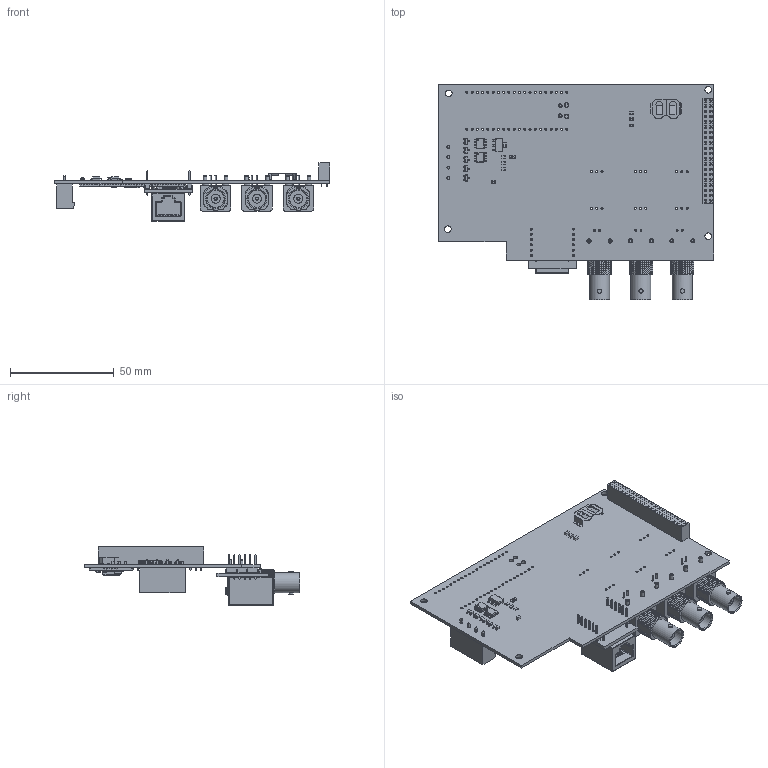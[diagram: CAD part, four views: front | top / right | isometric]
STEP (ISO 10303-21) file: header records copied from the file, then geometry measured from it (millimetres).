
FILE_DESCRIPTION(('KiCad electronic assembly'),'2;1');
FILE_NAME('tank1b.step','2026-07-03T19:44:15',('Pcbnew'),('Kicad'), 'Open CASCADE STEP processor 7.5','KiCad to STEP converter','Unknown' );
FILE_SCHEMA(('AUTOMOTIVE_DESIGN { 1 0 10303 214 1 1 1 1 }'));
Length unit declared in the file: millimetre
Products named in the file (18): tank1b 1; SOT-23; C_0805_2012Metric; SOT-223; FC-135R_L3.2-W1.5; BatteryHolder_LINX_BAT-HLD-012-SMT; PinSocket_2x20_P2.54mm_Vertical; R_0805_2012Metric; SOIC-8_3.9x4.9mm_P1.27mm; PhoenixContact_MSTBVA_2,5_4-G_1x04_P5.00mm_Vertical; BNC_Amphenol_B6252HB-NPP3G-50_Horizontal; w5500-lite; COMPOUND; RaspberryPi_Pico; RaspberryPi_Pico_Module_KiCad; tank1_PCB
Assembly tree (29 placements, depth 3):
  tank1b 1
    SOT-23  x5
    C_0805_2012Metric  x4
    SOT-223
    FC-135R_L3.2-W1.5
    BatteryHolder_LINX_BAT-HLD-012-SMT
    PinSocket_2x20_P2.54mm_Vertical
    R_0805_2012Metric  x3
    SOIC-8_3.9x4.9mm_P1.27mm  x2
    PhoenixContact_MSTBVA_2,5_4-G_1x04_P5.00mm_Vertical
    BNC_Amphenol_B6252HB-NPP3G-50_Horizontal  x3
    w5500-lite
      COMPOUND
      COMPOUND
      COMPOUND
    RaspberryPi_Pico
      RaspberryPi_Pico_Module_KiCad
    tank1_PCB
Bounding box: 132.7 x 104.15 x 28.12 mm (x, y, z)
Volume: 34645.8 mm3; surface area: 46568.5 mm2
Topology: 108 solids, 244 shells, 5643 faces, 15052 edges, 9994 vertices
Faces by surface type: plane 3747, bspline 1184, cylinder 662, cone 34, torus 16
Full cylindrical faces by diameter (mm): 0.67 x12, 0.89 x6, 1 x153, 1.3 x3, 1.4 x4, 1.6 x3, 1.8 x6, 1.85 x2, 2 x12, 2.01 x6, 2.1 x4, 2.2 x2, 2.5 x6, 3.2 x13, 3.5 x3, 3.8 x3, 4.4 x3, 8.25 x3, 9.65 x3
Entity records: 157336 total; most frequent: CARTESIAN_POINT 54940, ORIENTED_EDGE 24026, DIRECTION 15580, EDGE_CURVE 12334, VERTEX_POINT 8250, LINE 6044, VECTOR 6044, FACE_BOUND 5180
